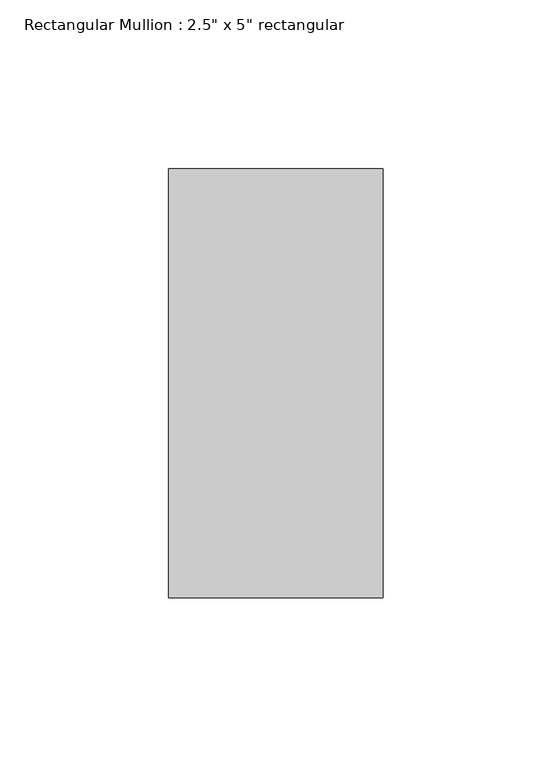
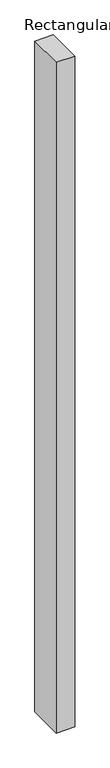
"""IFC4 building model written with IfcOpenShell, lengths in millimetres: member geometry."""

from ifc_helpers import new_model, si_unit, frame, origin, place, context, project, spatial, polyline, outline, extrude, source, transform, mapped, element, save


def member_c5ac0cbf(model_context):
    return source(origin(), model_context, "Body", "SweptSolid", [
        extrude(outline(polyline([(0.0, 63.5), (0.0, -63.5), (-63.5, -63.5), (-63.5, 63.5), (0.0, 63.5)])), frame((0.0, 0.0, -2440.5143955), z_axis=(0.0, 0.0, 1.0), x_axis=(1.0, 0.0, 0.0)), (0.0, 0.0, 1.0), 2440.5143955),
    ])


if __name__ == "__main__":
    model = new_model("IFC4")
    model_context = context("Model", 3, world=origin())
    ifc_project = project(units=[si_unit("LENGTHUNIT", "METRE", prefix="MILLI")], contexts=[model_context])
    site = spatial("IfcSite", under=ifc_project)
    building = spatial("IfcBuilding", under=site)
    placement = place(None, origin())
    member_shape = member_c5ac0cbf(model_context)
    element("IfcMember", 1, ObjectType="Rectangular Mullion : 2.5\" x 5\" rectangular", at=placement, inside=building, context=model_context, shape_type="MappedRepresentation", body=[
        mapped(member_shape, transform((0.0, 0.0, 0.0), x_axis=(1.0, 0.0, 0.0), y_axis=(0.0, 1.0, 0.0), z_axis=(0.0, 0.0, 1.0))),
    ])
    save(model, "model.ifc")
